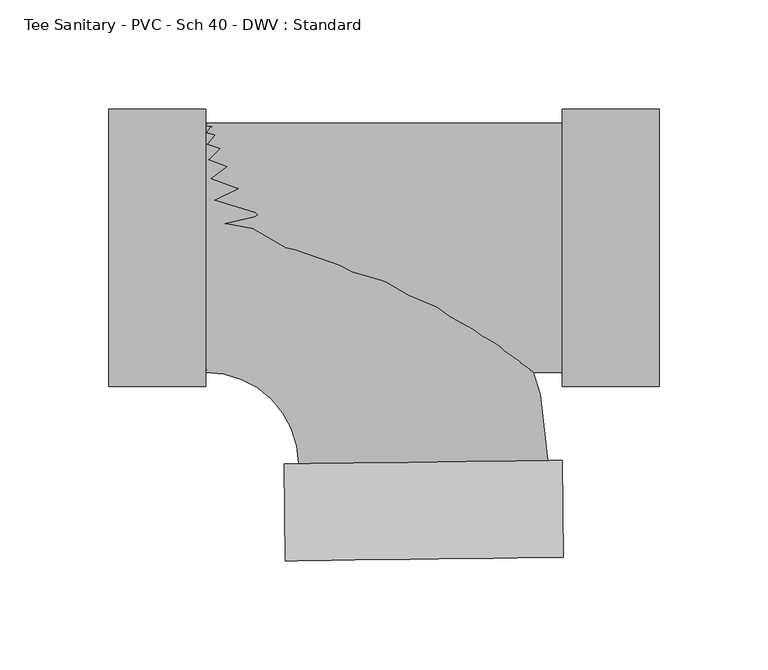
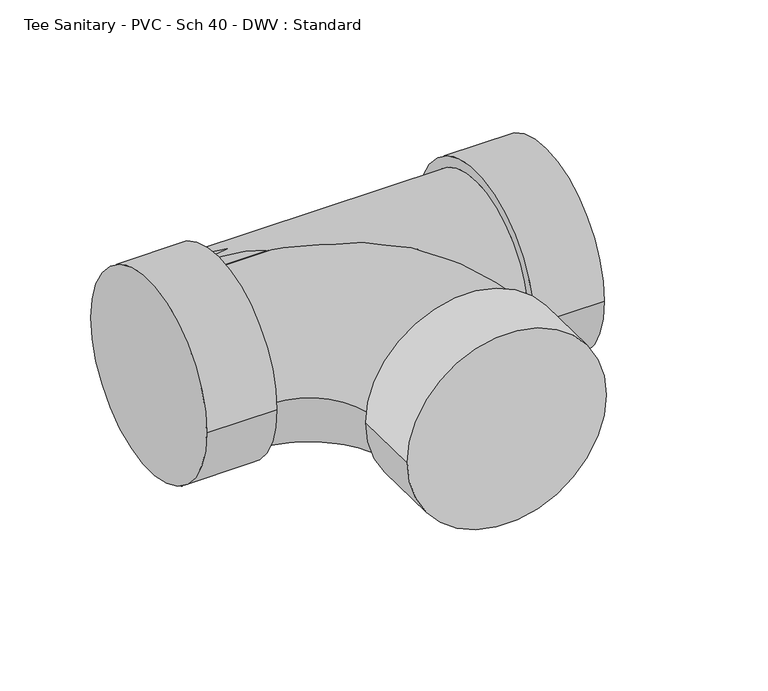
"""IFC4 building model written with IfcOpenShell, lengths in millimetres: pipe fitting geometry, Tee Sanitary - PVC - Sch 40 - DWV : Standard."""

from ifc_helpers import new_model, si_unit, point, frame, origin, place, context, project, spatial, circle_curve, ellipse_curve, trimmed, source, transform, mapped, element, save
from ifc_brep_helpers import plane_surface, cylinder_surface, revolved_surface, advanced_brep


def tee_sanitary_pvc_sch_40_dwv_standard_246ccaa4(model_context):
    return source(origin(), model_context, "Body", "AdvancedBrep", [
        advanced_brep(
        [(-98.425, -57.15, 0.0), (-98.425, 57.15, 0.0), (-55.9028009, -99.1386906, 0.0), (58.3880892, -97.69562, 0.0), (65.5527569, -142.0586998, 0.0), (-61.9450804, -143.6685253, 0.0), (64.9915628, -97.6122426, 0.0), (-62.5062745, -99.222068, 0.0)],
        [
            (0, 1, circle_curve(frame((-98.425, 0.0, 0.0), z_axis=(-1.0, 0.0, 0.0), x_axis=(0.0, 1.0, 0.0)), 57.15)),
            (1, 0, circle_curve(frame((-98.425, 0.0, 0.0), z_axis=(-1.0, 0.0, 0.0), x_axis=(0.0, 1.0, 0.0)), 57.15)),
            (0, 2, circle_curve(frame((-98.425, -99.6755885, 0.0), z_axis=(0.0, 0.0, -1.0), x_axis=(0.0, 1.0, 0.0)), 42.5255885)),
            (2, 3, circle_curve(frame((1.2426441, -98.4171553, 0.0), z_axis=(-0.012625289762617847, 0.9999202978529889, 0.0), x_axis=(0.9999202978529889, 0.012625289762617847, 0.0)), 57.15)),
            (3, 1, circle_curve(frame((-98.425, -99.6755885, 0.0), z_axis=(0.0, 0.0, 1.0), x_axis=(0.0, 1.0, 0.0)), 156.8255885)),
            (3, 2, circle_curve(frame((1.2426441, -98.4171553, 0.0), z_axis=(-0.012625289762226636, 0.9999202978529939, 0.0), x_axis=(0.9999202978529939, 0.012625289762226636, 0.0)), 57.15)),
            (4, 5, circle_curve(frame((1.8038383, -142.8636126, 0.0), z_axis=(0.012625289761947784, -0.9999202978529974, 0.0), x_axis=(-0.9999202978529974, -0.012625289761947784, 0.0)), 63.754)),
            (5, 4, circle_curve(frame((1.8038383, -142.8636126, 0.0), z_axis=(0.012625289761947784, -0.9999202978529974, 0.0), x_axis=(-0.9999202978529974, -0.012625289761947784, 0.0)), 63.754)),
            (6, 7, circle_curve(frame((1.2426441, -98.4171553, 0.0), z_axis=(-0.012625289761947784, 0.9999202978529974, 0.0), x_axis=(-0.9999202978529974, -0.012625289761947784, 0.0)), 63.754)),
            (7, 6, circle_curve(frame((1.2426441, -98.4171553, 0.0), z_axis=(-0.012625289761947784, 0.9999202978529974, 0.0), x_axis=(-0.9999202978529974, -0.012625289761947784, 0.0)), 63.754)),
            (4, 6),
            (7, 5),
        ],
        [
            plane_surface(frame((-98.425, 0.0, 0.0), z_axis=(-1.0, 0.0, 0.0), x_axis=(0.0, 0.0, 1.0))),
            revolved_surface(trimmed(ellipse_curve(frame((-98.425, 0.0, 0.0), z_axis=(-1.0, 0.0, 0.0), x_axis=(0.0, 1.0, 0.0)), 57.15, 57.15), [point((-98.425, -57.15, 0.0))], [point((-98.425, 57.15, 0.0))], True, "CARTESIAN"), (-98.425, -99.6755885, 0.0), (0.0, 0.0, -1.0)),
            revolved_surface(trimmed(ellipse_curve(frame((-98.425, 0.0, 0.0), z_axis=(-1.0, 0.0, 0.0), x_axis=(0.0, 1.0, 0.0)), 57.15, 57.15), [point((-98.425, 57.15, 0.0))], [point((-98.425, -57.15, 0.0))], True, "CARTESIAN"), (-98.425, -99.6755885, 0.0), (0.0, 0.0, -1.0)),
            plane_surface(frame((1.8038383, -142.8636126, 0.0), z_axis=(0.012625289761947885, -0.9999202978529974, 0.0), x_axis=(0.0, 0.0, 1.0))),
            plane_surface(frame((1.2426441, -98.4171553, 0.0), z_axis=(-0.012625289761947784, 0.9999202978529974, 0.0), x_axis=(0.0, 0.0, 1.0))),
            cylinder_surface(frame((1.8038383, -142.8636126, 0.0), z_axis=(0.012625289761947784, -0.9999202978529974, 0.0), x_axis=(-0.9999202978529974, -0.012625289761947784, 0.0)), 63.754),
        ],
        [
            (0, [[1, 2]]),
            (1, [[-1, 3, 4, 5]]),
            (2, [[-2, -5, 6, -3]]),
            (3, [[7, 8]]),
            (4, [[9, 10], [-4, -6]]),
            (5, [[-7, 11, -10, 12]]),
            (5, [[-8, -12, -9, -11]]),
        ],
    ),
        advanced_brep(
        [(-98.425, -57.15, 0.0), (64.9915628, -57.15, 0.0), (64.9915628, 57.15, 0.0), (-98.425, 57.15, 0.0), (64.9915628, -63.754, 0.0), (64.9915628, 63.754, 0.0), (109.4415628, -63.754, 0.0), (109.4415628, 63.754, 0.0), (-142.875, -63.754, 0.0), (-142.875, 63.754, 0.0), (-98.425, -63.754, 0.0), (-98.425, 63.754, 0.0)],
        [
            (0, 1),
            (1, 2, circle_curve(frame((64.9915628, 0.0, 0.0), z_axis=(-1.0, 0.0, 0.0), x_axis=(0.0, 1.0, 0.0)), 57.15)),
            (2, 3),
            (3, 0, circle_curve(frame((-98.425, 0.0, 0.0), z_axis=(1.0, 0.0, 0.0), x_axis=(0.0, 1.0, 0.0)), 57.15)),
            (0, 3, circle_curve(frame((-98.425, 0.0, 0.0), z_axis=(1.0, 0.0, 0.0), x_axis=(0.0, 1.0, 0.0)), 57.15)),
            (2, 1, circle_curve(frame((64.9915628, 0.0, 0.0), z_axis=(-1.0, 0.0, 0.0), x_axis=(0.0, 1.0, 0.0)), 57.15)),
            (4, 5, circle_curve(frame((64.9915628, 0.0, 0.0), z_axis=(-1.0, 0.0, 0.0), x_axis=(0.0, 1.0, 0.0)), 63.754)),
            (5, 4, circle_curve(frame((64.9915628, 0.0, 0.0), z_axis=(-1.0, 0.0, 0.0), x_axis=(0.0, 1.0, 0.0)), 63.754)),
            (6, 7, circle_curve(frame((109.4415628, 0.0, 0.0), z_axis=(1.0, 0.0, 0.0), x_axis=(0.0, 1.0, 0.0)), 63.754)),
            (7, 6, circle_curve(frame((109.4415628, 0.0, 0.0), z_axis=(1.0, 0.0, 0.0), x_axis=(0.0, 1.0, 0.0)), 63.754)),
            (4, 6),
            (7, 5),
            (8, 9, circle_curve(frame((-142.875, 0.0, 0.0), z_axis=(-1.0, 0.0, 0.0), x_axis=(0.0, 1.0, 0.0)), 63.754)),
            (9, 8, circle_curve(frame((-142.875, 0.0, 0.0), z_axis=(-1.0, 0.0, 0.0), x_axis=(0.0, 1.0, 0.0)), 63.754)),
            (10, 11, circle_curve(frame((-98.425, 0.0, 0.0), z_axis=(1.0, 0.0, 0.0), x_axis=(0.0, 1.0, 0.0)), 63.754)),
            (11, 10, circle_curve(frame((-98.425, 0.0, 0.0), z_axis=(1.0, 0.0, 0.0), x_axis=(0.0, 1.0, 0.0)), 63.754)),
            (8, 10),
            (11, 9),
        ],
        [
            cylinder_surface(frame((-98.425, 0.0, 0.0), z_axis=(-1.0, 0.0, 0.0), x_axis=(0.0, 1.0, 0.0)), 57.15),
            plane_surface(frame((64.9915628, 0.0, 0.0), z_axis=(-1.0, 0.0, 0.0), x_axis=(0.0, 0.0, 1.0))),
            plane_surface(frame((109.4415628, 0.0, 0.0), z_axis=(1.0, 0.0, 0.0), x_axis=(0.0, 0.0, 1.0))),
            cylinder_surface(frame((64.9915628, 0.0, 0.0), z_axis=(-1.0, 0.0, 0.0), x_axis=(0.0, 1.0, 0.0)), 63.754),
            plane_surface(frame((-142.875, 0.0, 0.0), z_axis=(-1.0, 0.0, 0.0), x_axis=(0.0, 0.0, 1.0))),
            plane_surface(frame((-98.425, 0.0, 0.0), z_axis=(1.0, 0.0, 0.0), x_axis=(0.0, 0.0, 1.0))),
            cylinder_surface(frame((-142.875, 0.0, 0.0), z_axis=(-1.0, 0.0, 0.0), x_axis=(0.0, 1.0, 0.0)), 63.754),
        ],
        [
            (0, [[1, 2, 3, 4]]),
            (0, [[-1, 5, -3, 6]]),
            (1, [[7, 8], [-2, -6]]),
            (2, [[9, 10]]),
            (3, [[-7, 11, -10, 12]]),
            (3, [[-8, -12, -9, -11]]),
            (4, [[13, 14]]),
            (5, [[15, 16], [-4, -5]]),
            (6, [[-13, 17, -16, 18]]),
            (6, [[-14, -18, -15, -17]]),
        ],
    ),
    ])


if __name__ == "__main__":
    model = new_model("IFC4")
    model_context = context("Model", 3, world=origin())
    ifc_project = project(units=[si_unit("LENGTHUNIT", "METRE", prefix="MILLI")], contexts=[model_context])
    site = spatial("IfcSite", under=ifc_project)
    building = spatial("IfcBuilding", under=site)
    placement = place(None, origin())
    tee_sanitary_pvc_sch_40_dwv_standard_shape = tee_sanitary_pvc_sch_40_dwv_standard_246ccaa4(model_context)
    element("IfcPipeFitting", 1, ObjectType="Tee Sanitary - PVC - Sch 40 - DWV : Standard", at=placement, inside=building, context=model_context, shape_type="MappedRepresentation", body=[
        mapped(tee_sanitary_pvc_sch_40_dwv_standard_shape, transform((0.0, 0.0, 0.0), x_axis=(1.0, 0.0, 0.0), y_axis=(0.0, 1.0, 0.0), z_axis=(0.0, 0.0, 1.0))),
    ])
    save(model, "model.ifc")
